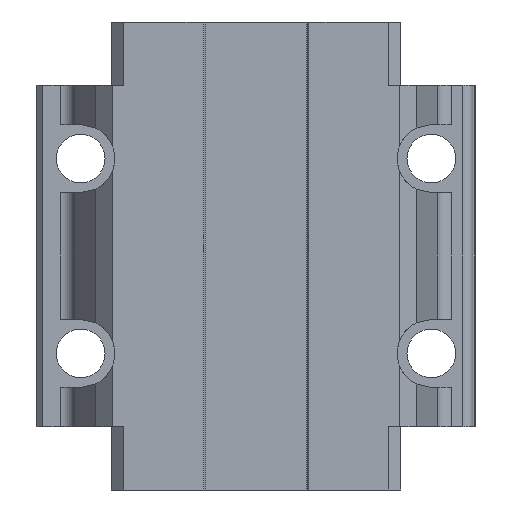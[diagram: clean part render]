
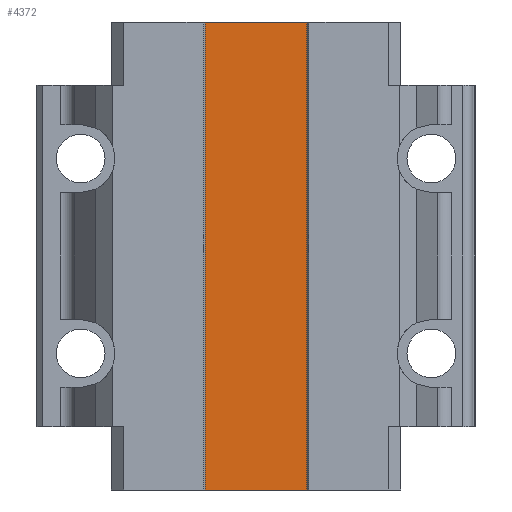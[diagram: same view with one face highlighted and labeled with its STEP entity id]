
A CAD part, front view. The second image highlights one B-rep face of the part: STEP entity #4372.
In plain terms, the highlighted planar face has unit normal (0, -1, 0).
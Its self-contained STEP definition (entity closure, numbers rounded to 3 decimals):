
#104=DIRECTION('',(-1.,0.,0.));
#105=VECTOR('',#104,22.517);
#106=CARTESIAN_POINT('',(11.259,-0.1,13.));
#107=LINE('',#106,#105);
#1429=DIRECTION('',(0.,0.,-1.));
#1430=VECTOR('',#1429,96.1);
#1431=CARTESIAN_POINT('',(11.259,-0.1,13.));
#1432=LINE('',#1431,#1430);
#1433=DIRECTION('',(-1.,0.,0.));
#1434=VECTOR('',#1433,22.517);
#1435=CARTESIAN_POINT('',(11.259,-0.1,-83.1));
#1436=LINE('',#1435,#1434);
#1437=DIRECTION('',(0.,0.,-1.));
#1438=VECTOR('',#1437,96.1);
#1439=CARTESIAN_POINT('',(-11.259,-0.1,13.));
#1440=LINE('',#1439,#1438);
#2031=CARTESIAN_POINT('',(11.259,-0.1,13.));
#2032=VERTEX_POINT('',#2031);
#2033=CARTESIAN_POINT('',(-11.259,-0.1,13.));
#2034=VERTEX_POINT('',#2033);
#2172=CARTESIAN_POINT('',(-11.259,-0.1,-83.1));
#2173=VERTEX_POINT('',#2172);
#2174=CARTESIAN_POINT('',(11.259,-0.1,-83.1));
#2175=VERTEX_POINT('',#2174);
#4360=CARTESIAN_POINT('',(-11.259,-0.1,14.));
#4361=DIRECTION('',(0.,-1.,0.));
#4362=DIRECTION('',(1.,0.,0.));
#4363=AXIS2_PLACEMENT_3D('',#4360,#4361,#4362);
#4364=PLANE('',#4363);
#4365=ORIENTED_EDGE('',*,*,#2665,.F.);
#4366=ORIENTED_EDGE('',*,*,#4355,.T.);
#4367=ORIENTED_EDGE('',*,*,#3293,.T.);
#4369=ORIENTED_EDGE('',*,*,#4368,.F.);
#4370=EDGE_LOOP('',(#4365,#4366,#4367,#4369));
#4371=FACE_OUTER_BOUND('',#4370,.F.);
#4372=ADVANCED_FACE('',(#4371),#4364,.T.);
#2665=EDGE_CURVE('',#2032,#2034,#107,.T.);
#3293=EDGE_CURVE('',#2175,#2173,#1436,.T.);
#4355=EDGE_CURVE('',#2032,#2175,#1432,.T.);
#4368=EDGE_CURVE('',#2034,#2173,#1440,.T.);
